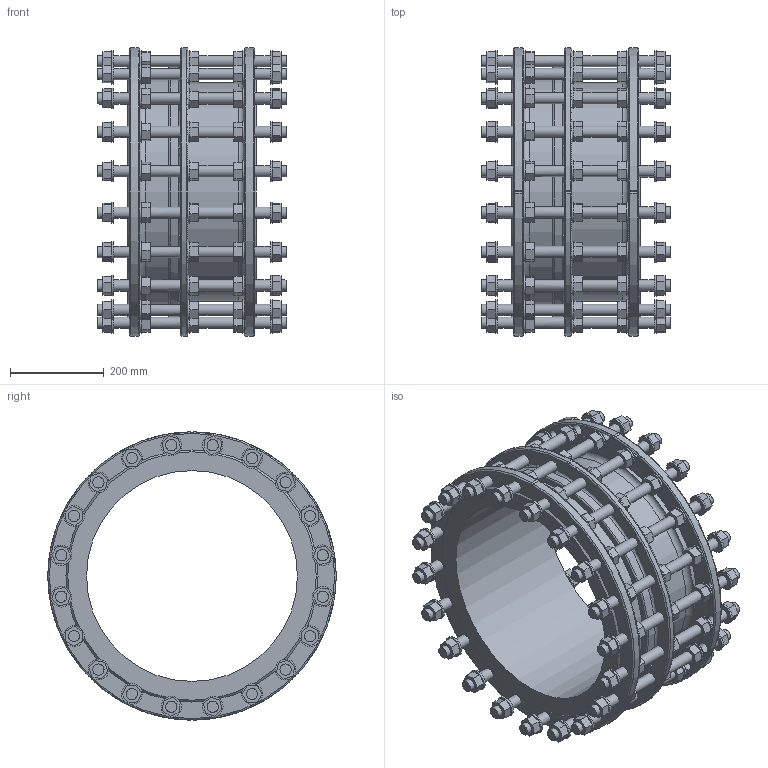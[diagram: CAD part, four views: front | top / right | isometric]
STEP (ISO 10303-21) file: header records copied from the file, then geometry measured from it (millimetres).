
FILE_DESCRIPTION (( 'STEP AP203' ), '1' );
FILE_NAME ('O_265_911_DN450_0XXXXX01_L=275_REV01.step', '2024-12-12T08:07:11', ( '' ), ( '' ), 'SwSTEP 2.0', 'SolidWorks 2022', '' );
FILE_SCHEMA (( 'CONFIG_CONTROL_DESIGN' ));
Length unit declared in the file: millimetre
Products named in the file (1): O_265_911_DN450_0XXXXX01_L=275_REV01
Bounding box: 405 x 615 x 614.97 mm (x, y, z)
Volume: 18921654.6 mm3; surface area: 2206987.5 mm2
Topology: 1 solids, 1 shells, 1209 faces, 2964 edges, 1967 vertices
Faces by surface type: plane 959, cylinder 231, torus 16, cone 3
Full cylindrical faces by diameter (mm): 24 x120, 44 x100, 450 x1, 466 x1, 500 x1
Entity records: 34108 total; most frequent: CARTESIAN_POINT 6673, DIRECTION 5549, ORIENTED_EDGE 5182, EDGE_CURVE 2591, VECTOR 1925, LINE 1925, VERTEX_POINT 1824, AXIS2_PLACEMENT_3D 1812
